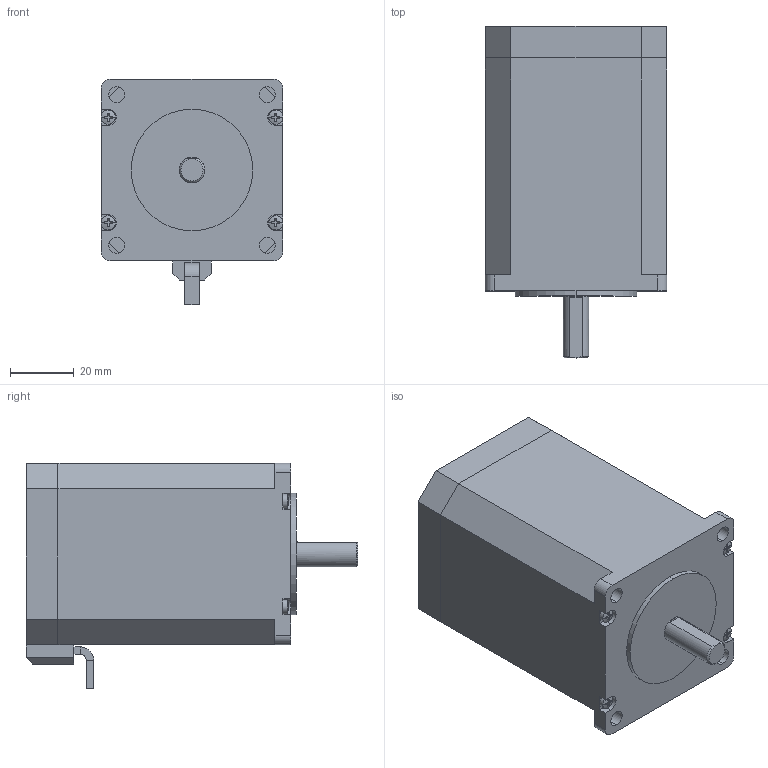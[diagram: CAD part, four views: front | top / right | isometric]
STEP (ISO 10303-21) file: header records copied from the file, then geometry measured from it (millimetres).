
FILE_DESCRIPTION (( 'STEP AP203' ), '1' );
FILE_NAME ('57BG84-40A4-002 贝格达、前径8长21扁19厚7.5、电缆线0.5m.STEP', '2024-10-13T14:19:01', ( '' ), ( '' ), 'SwSTEP 2.0', 'SolidWorks 2022', '' );
FILE_SCHEMA (( 'CONFIG_CONTROL_DESIGN' ));
Length unit declared in the file: millimetre
Products named in the file (1): 57BG84-40A4-002    贝格达、前径8长21扁19厚7.5、电缆线0.5m
Bounding box: 57.04 x 104 x 70.8 mm (x, y, z)
Volume: 263182.3 mm3; surface area: 32329.8 mm2
Topology: 6 solids, 6 shells, 188 faces, 481 edges, 316 vertices
Faces by surface type: plane 124, cylinder 54, sphere 8, cone 2
Entity records: 5844 total; most frequent: CARTESIAN_POINT 1174, DIRECTION 977, ORIENTED_EDGE 962, EDGE_CURVE 481, AXIS2_PLACEMENT_3D 357, VERTEX_POINT 316, LINE 263, VECTOR 263
